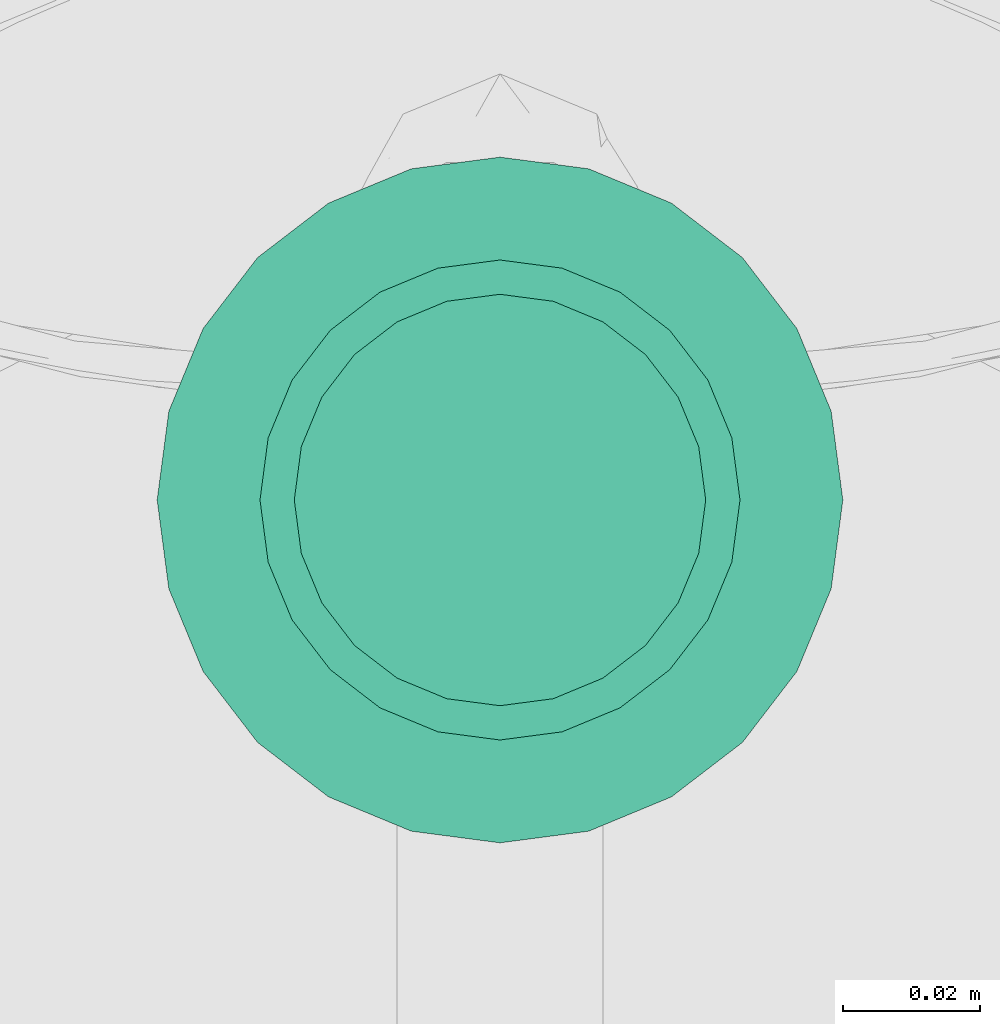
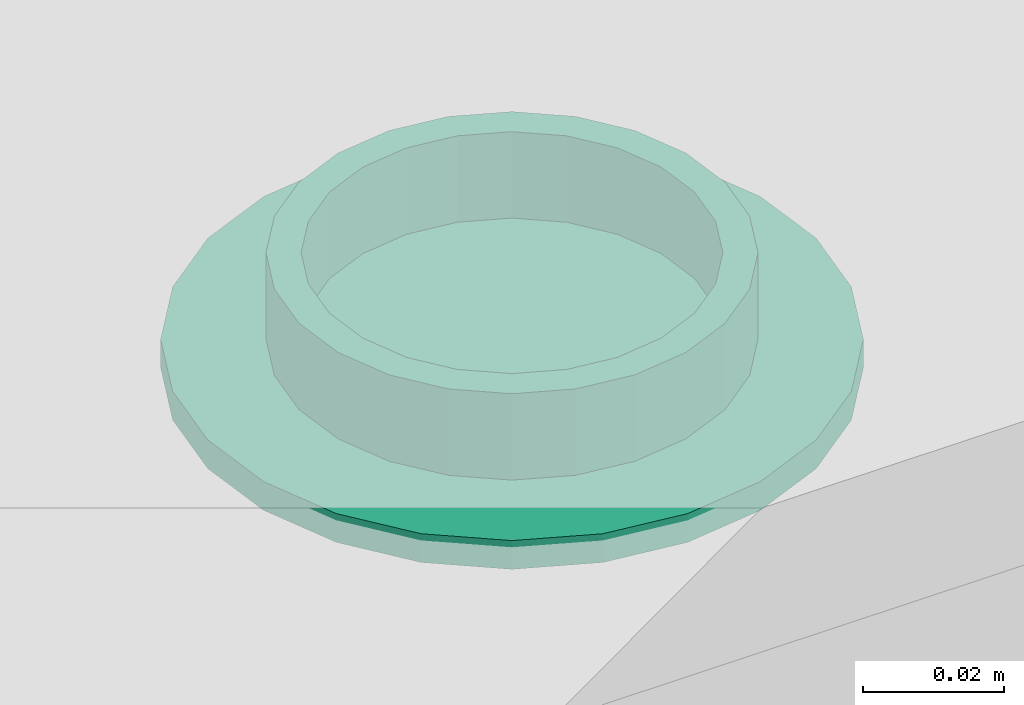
# One storey, part 24 of 40: 1 flow terminal.
"""IFC2X3 building model written with IfcOpenShell, lengths in metres."""

import ifcopenshell
import ifcopenshell.guid

model = None  # the IFC model being written
_history = None  # IfcOwnerHistory: only IFC2X3 demands one
_inside = {}  # id of a spatial element -> (the spatial element, [elements in it])
_under = {}  # id of a project, library or spatial element -> (it, [spatial elements below it])
_declared = {}  # id of a project -> (the project, [libraries it declares])
_typed = {}  # id of a type object -> (the type object, [elements of that type])
_made_of = {}  # id of a material, layer set ... -> (it, [elements and type objects made of it])


def new_model(schema):
    """Start an empty IFC model of exactly this schema.

    Asked for "IFC4X3", IfcOpenShell would pick the latest addendum, in which some entities
    have other attributes; the version numbers below select the first issue.
    IFC2X3 requires an IfcOwnerHistory on every rooted entity: one is made here for all.
    """
    global model, _history
    if schema == "IFC4X3":
        model = ifcopenshell.file(schema_version=(4, 3, 0, 0))
    else:
        model = ifcopenshell.file(schema=schema)
    _inside.clear()
    _under.clear()
    _declared.clear()
    _typed.clear()
    _made_of.clear()
    _history = None
    if model.schema == "IFC2X3":
        org = make("IfcOrganization", Name="unknown")
        user = make(
            "IfcPersonAndOrganization",
            ThePerson=make("IfcPerson", FamilyName="unknown"),
            TheOrganization=org,
        )
        app = make(
            "IfcApplication",
            ApplicationDeveloper=org,
            Version="unknown",
            ApplicationFullName="unknown",
            ApplicationIdentifier="unknown",
        )
        _history = make(
            "IfcOwnerHistory",
            OwningUser=user,
            OwningApplication=app,
            ChangeAction="ADDED",
            CreationDate=0,
        )
    return model


def make(cls, **values):
    """One entity of the class cls with the attributes given. An attribute that is None is left unset."""
    return model.create_entity(
        cls, **{name: value for name, value in values.items() if value is not None}
    )


def entity(cls, *values):
    """Any entity or typed value of the class cls, its attributes in the order of the schema. None: left unset."""
    e = model.create_entity(cls)
    for i, value in enumerate(values):
        if value is not None:
            e[i] = value
    return e


def rooted(cls, **values):
    """An entity with a GlobalId (a new one), such as an element, a storey or a relation."""
    return make(cls, GlobalId=ifcopenshell.guid.new(), OwnerHistory=_history, **values)


def si_unit(unit_type, name, prefix=None):
    """IfcSIUnit, for example si_unit("LENGTHUNIT", "METRE", prefix="MILLI")."""
    return make("IfcSIUnit", UnitType=unit_type, Prefix=prefix, Name=name)


def converted_unit(unit_type, name, factor, base, dimensions=None, offset=None):
    """IfcConversionBasedUnit, such as the inch: factor (a typed value) times the base unit."""
    return make(
        "IfcConversionBasedUnit"
        if offset is None
        else "IfcConversionBasedUnitWithOffset",
        ConversionOffset=offset,
        Dimensions=None
        if dimensions is None
        else entity("IfcDimensionalExponents", *dimensions),
        UnitType=unit_type,
        Name=name,
        ConversionFactor=make(
            "IfcMeasureWithUnit", ValueComponent=factor, UnitComponent=base
        ),
    )


def derived_unit(unit_type, elements):
    """IfcDerivedUnit: a product of units, each with its exponent."""
    return make(
        "IfcDerivedUnit",
        Elements=[
            make("IfcDerivedUnitElement", Unit=unit, Exponent=power)
            for unit, power in elements
        ],
        UnitType=unit_type,
    )


def assignment(units):
    """IfcUnitAssignment: the units of a project."""
    return None if units is None else make("IfcUnitAssignment", Units=units)


def point(xyz):
    """IfcCartesianPoint."""
    return None if xyz is None else make("IfcCartesianPoint", Coordinates=xyz)


def direction(xyz):
    """IfcDirection."""
    return None if xyz is None else make("IfcDirection", DirectionRatios=xyz)


def frame(location, z_axis=None, x_axis=None):
    """IfcAxis2Placement3D, a coordinate frame: its origin and axes. An axis left out is left unset."""
    return make(
        "IfcAxis2Placement3D",
        Location=point(location),
        Axis=direction(z_axis),
        RefDirection=direction(x_axis),
    )


def origin():
    """The frame at (0, 0, 0) with its axes left unset."""
    return frame((0.0, 0.0, 0.0))


def place(relative_to, where):
    """IfcLocalPlacement: puts the frame where relative to a parent placement (None: the world)."""
    return make(
        "IfcLocalPlacement", PlacementRelTo=relative_to, RelativePlacement=where
    )


def context(
    kind, dimensions, precision=None, world=None, true_north=None, identifier=None
):
    """IfcGeometricRepresentationContext, for example the 3D "Model" context."""
    return make(
        "IfcGeometricRepresentationContext",
        ContextIdentifier=identifier,
        ContextType=kind,
        CoordinateSpaceDimension=dimensions,
        Precision=precision,
        WorldCoordinateSystem=world,
        TrueNorth=true_north,
    )


def subcontext(parent, identifier, kind, view, scale=None):
    """IfcGeometricRepresentationSubContext, for example "Body" below "Model"."""
    return make(
        "IfcGeometricRepresentationSubContext",
        ContextIdentifier=identifier,
        ContextType=kind,
        ParentContext=parent,
        TargetScale=scale,
        TargetView=view,
    )


def project(units=None, contexts=None):
    """IfcProject with its units and contexts."""
    return rooted(
        "IfcProject",
        Name="project",
        RepresentationContexts=contexts,
        UnitsInContext=assignment(units),
    )


def spatial(cls, under=None, at=None, **own):
    """A site, building, storey or space (cls), placed at a placement, below another one or the project."""
    s = rooted(cls, ObjectPlacement=at, **own)
    if under is not None:
        _under.setdefault(under.id(), (under, []))[1].append(s)
    return s


def faces_of(points, faces, orient=None, outer=None):
    """IfcFace entities. A face is a list of loops; a loop is a list of indices into points, from 0.

    orient and outer hold one flag for each loop. By default every Orientation is true, the
    first loop of a face is its IfcFaceOuterBound and the others are IfcFaceBound.
    """
    made = []
    for i, loops in enumerate(faces):
        bounds = []
        for j, loop in enumerate(loops):
            is_outer = j == 0 if outer is None else outer[i][j]
            bounds.append(
                make(
                    "IfcFaceOuterBound" if is_outer else "IfcFaceBound",
                    Bound=make("IfcPolyLoop", Polygon=[points[k] for k in loop]),
                    Orientation=True if orient is None else orient[i][j],
                )
            )
        made.append(make("IfcFace", Bounds=bounds))
    return made


def faceted_brep(points, faces, orient=None, outer=None, voids=None):
    """IfcFacetedBrep: a solid bounded by flat faces; with voids (closed shells), ...WithVoids."""
    shared = [point(p) for p in points]
    hull = make("IfcClosedShell", CfsFaces=faces_of(shared, faces, orient, outer))
    if voids is None:
        return make("IfcFacetedBrep", Outer=hull)
    return make(
        "IfcFacetedBrepWithVoids",
        Outer=hull,
        Voids=[
            make(cls, CfsFaces=faces_of(shared, fs, o, b)) for cls, fs, o, b in voids
        ],
    )


def shape(context_of_items, identifier, shape_type, items):
    """IfcShapeRepresentation: the items that make up one representation, for example the "Body"."""
    return make(
        "IfcShapeRepresentation",
        ContextOfItems=context_of_items,
        RepresentationIdentifier=identifier,
        RepresentationType=shape_type,
        Items=items,
    )


def source(mapping_origin, context_of_items, identifier, shape_type, items):
    """IfcRepresentationMap: a shape defined once, which mapped items show again and again."""
    return make(
        "IfcRepresentationMap",
        MappingOrigin=mapping_origin,
        MappedRepresentation=shape(context_of_items, identifier, shape_type, items),
    )


def transform(
    local_origin,
    x_axis=None,
    y_axis=None,
    z_axis=None,
    scale=None,
    scale2=None,
    scale3=None,
    uniform=True,
):
    """IfcCartesianTransformationOperator3D, or its non-uniform kind. x_axis, y_axis, z_axis: its Axis1, 2, 3."""
    if uniform:
        return make(
            "IfcCartesianTransformationOperator3D",
            Axis1=direction(x_axis),
            Axis2=direction(y_axis),
            LocalOrigin=point(local_origin),
            Scale=scale,
            Axis3=direction(z_axis),
        )
    return make(
        "IfcCartesianTransformationOperator3DnonUniform",
        Axis1=direction(x_axis),
        Axis2=direction(y_axis),
        LocalOrigin=point(local_origin),
        Scale=scale,
        Axis3=direction(z_axis),
        Scale2=scale2,
        Scale3=scale3,
    )


def mapped(mapping_source, mapping_target):
    """IfcMappedItem: shows the shape of a source again, moved by a transform."""
    return make(
        "IfcMappedItem", MappingSource=mapping_source, MappingTarget=mapping_target
    )


def material(Name=None, Category=None):
    """IfcMaterial."""
    return make("IfcMaterial", Name=Name, Category=Category)


def material_list(materials):
    """IfcMaterialList."""
    return make("IfcMaterialList", Materials=materials)


def made_of(thing, what):
    """Note that an element or type object is made of a material, layer set ...; save() writes the relation."""
    if what is not None:
        _made_of.setdefault(what.id(), (what, []))[1].append(thing)
    return thing


def type_object(cls, material=None, **own):
    """A type object (cls), such as IfcWallType, which elements share."""
    return made_of(rooted(cls, **own), material)


def type_shapes(of_type, sources):
    """Give a type object the sources (RepresentationMaps) that its elements show as mapped items."""
    of_type.RepresentationMaps = sources


def element(
    cls,
    number,
    at=None,
    inside=None,
    cuts=None,
    type_object=None,
    material=None,
    context=None,
    identifier="Body",
    shape_type=None,
    held_by="IfcProductDefinitionShape",
    body=None,
    shapes=None,
    **own,
):
    """One element of the class cls, such as IfcWall. Its Tag is "e" and its number.

    at: its placement. inside: the storey or other place that contains it. cuts: it is an
    opening in that element (IfcRelVoidsElement). A single representation is given by context,
    identifier, shape_type and body (its items); several are given by shapes. held_by: the class
    of the entity that holds the representations. save() writes the other relations.
    """
    e = rooted(cls, Tag="e%d" % number, ObjectPlacement=at, **own)
    if body is not None:
        shapes = [shape(context, identifier, shape_type, body)]
    if shapes is not None:
        e.Representation = make(held_by, Representations=shapes)
    if inside is not None:
        _inside.setdefault(inside.id(), (inside, []))[1].append(e)
    if cuts is not None:
        rooted(
            "IfcRelVoidsElement", RelatingBuildingElement=cuts, RelatedOpeningElement=e
        )
    if type_object is not None:
        _typed.setdefault(type_object.id(), (type_object, []))[1].append(e)
    return made_of(e, material)


def aggregate(whole, parts):
    """IfcRelAggregates: a whole, such as a stair, and the parts it consists of."""
    return rooted("IfcRelAggregates", RelatingObject=whole, RelatedObjects=parts)


def save(model, path):
    """Write the relations noted so far, then the file.

    IfcRelAggregates (storeys below a building ...), IfcRelContainedInSpatialStructure (elements
    in a storey), IfcRelDefinesByType, IfcRelAssociatesMaterial and IfcRelDeclares: one each for
    every whole, place, type object, material and project.
    """
    for whole, parts in _under.values():
        aggregate(whole, parts)
    for where, things in _inside.values():
        rooted(
            "IfcRelContainedInSpatialStructure",
            RelatedElements=things,
            RelatingStructure=where,
        )
    for kind, things in _typed.values():
        rooted("IfcRelDefinesByType", RelatedObjects=things, RelatingType=kind)
    for what, things in _made_of.values():
        rooted("IfcRelAssociatesMaterial", RelatedObjects=things, RelatingMaterial=what)
    for by, libraries in _declared.values():
        rooted("IfcRelDeclares", RelatingContext=by, RelatedDefinitions=libraries)
    model.write(path)


model = new_model("IFC2X3")

# Units and contexts
model_context = context("Model", 3, precision=1e-05, world=origin(), true_north=direction((6.12303176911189e-17, 1.0)))
body_context = subcontext(model_context, "Body", "Model", "MODEL_VIEW")
ifc_project = project(units=[si_unit("LENGTHUNIT", "METRE"), si_unit("AREAUNIT", "SQUARE_METRE"), si_unit("VOLUMEUNIT", "CUBIC_METRE"), converted_unit("PLANEANGLEUNIT", "DEGREE", entity("IfcRatioMeasure", 0.0174532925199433), si_unit("PLANEANGLEUNIT", "RADIAN"), dimensions=[0, 0, 0, 0, 0, 0, 0]), si_unit("MASSUNIT", "GRAM", prefix="KILO"), derived_unit("MASSDENSITYUNIT", [(si_unit("MASSUNIT", "GRAM", prefix="KILO"), 1), (si_unit("LENGTHUNIT", "METRE"), -3)]), si_unit("TIMEUNIT", "SECOND"), si_unit("FREQUENCYUNIT", "HERTZ"), si_unit("THERMODYNAMICTEMPERATUREUNIT", "DEGREE_CELSIUS"), derived_unit("THERMALTRANSMITTANCEUNIT", [(si_unit("MASSUNIT", "GRAM", prefix="KILO"), 1), (si_unit("THERMODYNAMICTEMPERATUREUNIT", "KELVIN"), -1), (si_unit("TIMEUNIT", "SECOND"), -3)]), derived_unit("VOLUMETRICFLOWRATEUNIT", [(si_unit("LENGTHUNIT", "METRE"), 3), (si_unit("TIMEUNIT", "SECOND"), -1)]), si_unit("ELECTRICCURRENTUNIT", "AMPERE"), si_unit("ELECTRICVOLTAGEUNIT", "VOLT"), si_unit("POWERUNIT", "WATT"), si_unit("FORCEUNIT", "NEWTON", prefix="KILO"), si_unit("ILLUMINANCEUNIT", "LUX"), si_unit("LUMINOUSFLUXUNIT", "LUMEN"), si_unit("LUMINOUSINTENSITYUNIT", "CANDELA"), derived_unit("USERDEFINED", [(si_unit("MASSUNIT", "GRAM", prefix="KILO"), -1), (si_unit("LENGTHUNIT", "METRE"), -2), (si_unit("TIMEUNIT", "SECOND"), 3), (si_unit("LUMINOUSFLUXUNIT", "LUMEN"), 1)]), derived_unit("LINEARVELOCITYUNIT", [(si_unit("LENGTHUNIT", "METRE"), 1), (si_unit("TIMEUNIT", "SECOND"), -1)]), si_unit("PRESSUREUNIT", "PASCAL"), derived_unit("USERDEFINED", [(si_unit("LENGTHUNIT", "METRE"), -2), (si_unit("MASSUNIT", "GRAM", prefix="KILO"), 1), (si_unit("TIMEUNIT", "SECOND"), -2)])], contexts=[model_context])

# Site, building, storey, space
site_placement = place(None, origin())
site = spatial("IfcSite", under=ifc_project, at=site_placement, Name="Surface", CompositionType="ELEMENT")
building_placement = place(site_placement, origin())
building = spatial("IfcBuilding", under=site, at=building_placement, CompositionType="ELEMENT")
storey_placement = place(building_placement, origin())
storey = spatial("IfcBuildingStorey", under=building, at=storey_placement, Name="RDC", CompositionType="ELEMENT", Elevation=-1.0941605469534e-13)
space_placement = place(storey_placement, origin())
space = spatial("IfcSpace", under=storey, at=space_placement, Name="9", CompositionType="ELEMENT", InteriorOrExteriorSpace="INTERNAL")

# Flow terminal
ifc_material_1 = material(Name="Verre - Lampe")
ifc_material_2 = material(Name="Plastique - Blanc")
ifc_material_list_1 = material_list([ifc_material_1, ifc_material_2])
ifc_material_list_2 = material_list([ifc_material_1, ifc_material_2])
light_fixture_type = type_object("IfcLightFixtureType", Name="Encastrable", PredefinedType="NOTDEFINED", material=ifc_material_list_2)
shared_shape = source(origin(), body_context, "Body", "Brep", [
    faceted_brep([(0.0665952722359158, 0.0775760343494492, 0.00300000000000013), (0.0728084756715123, 0.0728084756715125, 0.00300000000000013), (0.0775760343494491, 0.0665952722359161, 0.00300000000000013), (0.080573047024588, 0.0593598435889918, 0.00300000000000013), (0.081595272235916, 0.051595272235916, 0.00300000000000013), (0.080573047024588, 0.0438307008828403, 0.00300000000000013), (0.0775760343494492, 0.0365952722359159, 0.00300000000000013), (0.0728084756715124, 0.0303820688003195, 0.00300000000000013), (0.066595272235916, 0.0256145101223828, 0.00300000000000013), (0.0593598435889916, 0.0226174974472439, 0.00300000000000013), (0.051595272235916, 0.0215952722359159, 0.00300000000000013), (0.0438307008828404, 0.0226174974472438, 0.00300000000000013), (0.036595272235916, 0.0256145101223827, 0.0030000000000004), (0.0303820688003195, 0.0303820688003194, 0.0030000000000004), (0.0256145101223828, 0.0365952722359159, 0.0030000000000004), (0.0226174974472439, 0.0438307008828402, 0.0030000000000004), (0.0215952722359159, 0.0515952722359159, 0.0030000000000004), (0.0226174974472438, 0.0593598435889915, 0.0030000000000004), (0.0256145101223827, 0.0665952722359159, 0.0030000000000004), (0.0303820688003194, 0.0728084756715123, 0.0030000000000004), (0.0365952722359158, 0.0775760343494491, 0.0030000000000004), (0.0438307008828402, 0.080573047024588, 0.00300000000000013), (0.0515952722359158, 0.081595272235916, 0.00300000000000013), (0.0593598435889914, 0.0805730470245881, 0.00300000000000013), (0.051595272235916, 0.0215952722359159, 0.00500000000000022), (0.0593598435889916, 0.0226174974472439, 0.00500000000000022), (0.066595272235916, 0.0256145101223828, 0.00500000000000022), (0.0728084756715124, 0.0303820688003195, 0.00500000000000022), (0.0775760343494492, 0.0365952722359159, 0.00500000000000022), (0.0805730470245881, 0.0438307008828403, 0.00500000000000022), (0.081595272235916, 0.0515952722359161, 0.00500000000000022), (0.080573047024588, 0.0593598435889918, 0.00500000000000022), (0.0775760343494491, 0.0665952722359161, 0.00500000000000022), (0.0728084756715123, 0.0728084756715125, 0.00500000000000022), (0.0665952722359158, 0.0775760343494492, 0.00500000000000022), (0.0593598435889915, 0.0805730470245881, 0.00500000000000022), (0.0515952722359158, 0.081595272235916, 0.00500000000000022), (0.0438307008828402, 0.080573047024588, 0.00500000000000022), (0.0365952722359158, 0.0775760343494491, 0.00500000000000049), (0.0303820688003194, 0.0728084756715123, 0.00500000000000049), (0.0256145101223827, 0.0665952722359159, 0.00500000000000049), (0.0226174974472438, 0.0593598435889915, 0.00500000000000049), (0.0215952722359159, 0.0515952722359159, 0.00500000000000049), (0.0226174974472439, 0.0438307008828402, 0.00500000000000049), (0.0256145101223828, 0.0365952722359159, 0.00500000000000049), (0.0303820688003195, 0.0303820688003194, 0.00500000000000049), (0.036595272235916, 0.0256145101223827, 0.00500000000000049), (0.0438307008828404, 0.0226174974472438, 0.00500000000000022)], [[[0, 1, 2, 3, 4, 5, 6, 7, 8, 9, 10, 11, 12, 13, 14, 15, 16, 17, 18, 19, 20, 21, 22, 23]], [[24, 25, 26, 27, 28, 29, 30, 31, 32, 33, 34, 35, 36, 37, 38, 39, 40, 41, 42, 43, 44, 45, 46, 47]], [[41, 17, 16, 42]], [[40, 18, 17, 41]], [[20, 19, 39, 38]], [[40, 39, 19, 18]], [[21, 20, 38, 37]], [[22, 21, 37, 36]], [[35, 23, 22, 36]], [[34, 0, 23, 35]], [[2, 1, 33, 32]], [[34, 33, 1, 0]], [[3, 2, 32, 31]], [[4, 3, 31, 30]], [[29, 5, 4, 30]], [[28, 6, 5, 29]], [[8, 7, 27, 26]], [[28, 27, 7, 6]], [[9, 8, 26, 25]], [[10, 9, 25, 24]], [[47, 11, 10, 24]], [[46, 12, 11, 47]], [[14, 13, 45, 44]], [[46, 45, 13, 12]], [[15, 14, 44, 43]], [[16, 15, 43, 42]]]),
    faceted_brep([(0.0765952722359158, 0.0948965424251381, 0.0), (0.0869506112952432, 0.0869506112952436, 0.0), (0.066595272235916, 0.0775760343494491, 0.0), (0.0593598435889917, 0.080573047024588, 0.0), (0.0645362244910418, 0.0998915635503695, 0.0), (0.0728084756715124, 0.0728084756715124, 0.0), (0.0948965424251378, 0.0765952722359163, 0.0), (0.0775760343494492, 0.066595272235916, 0.0), (0.080573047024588, 0.0593598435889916, 0.0), (0.0998915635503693, 0.0645362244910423, 0.0), (0.081595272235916, 0.051595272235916, 0.0), (0.101595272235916, 0.051595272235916, 0.0), (0.080573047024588, 0.0438307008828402, 0.0), (0.0998915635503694, 0.03865431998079, 0.0), (0.0775760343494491, 0.0365952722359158, 0.0), (0.0948965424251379, 0.026595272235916, 0.0), (0.0728084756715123, 0.0303820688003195, 0.0), (0.0869506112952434, 0.0162399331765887, 0.0), (0.0665952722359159, 0.0256145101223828, 0.0), (0.076595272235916, 0.00829400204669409, 0.0), (0.0593598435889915, 0.0226174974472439, 0.0), (0.0645362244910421, 0.0032989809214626, 0.0), (0.0515952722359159, 0.021595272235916, 0.0), (0.0515952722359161, 0.001595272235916, 0.0), (0.0438307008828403, 0.022617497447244, 0.0), (0.03865431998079, 0.00329898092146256, 0.0), (0.0365952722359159, 0.0256145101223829, 0.0), (0.0265952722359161, 0.00829400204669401, 0.0), (0.0303820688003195, 0.0303820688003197, 0.0), (0.0162399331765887, 0.0162399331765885, 0.0), (0.0256145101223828, 0.0365952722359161, 0.0), (0.00829400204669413, 0.0265952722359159, 0.0), (0.00329898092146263, 0.0386543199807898, 0.0), (0.0226174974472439, 0.0438307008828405, 0.0), (0.001595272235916, 0.0515952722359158, 0.0), (0.021595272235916, 0.0515952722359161, 0.0), (0.00329898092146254, 0.0645362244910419, 0.0), (0.022617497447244, 0.0593598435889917, 0.0), (0.00829400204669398, 0.0765952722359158, 0.0), (0.0256145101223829, 0.0665952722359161, 0.0), (0.0162399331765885, 0.0869506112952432, 0.0), (0.0303820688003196, 0.0728084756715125, 0.0), (0.0265952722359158, 0.0948965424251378, 0.0), (0.036595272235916, 0.0775760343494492, 0.0), (0.0386543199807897, 0.0998915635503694, 0.0), (0.0438307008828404, 0.080573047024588, 0.0), (0.0515952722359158, 0.101595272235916, 0.0), (0.051595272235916, 0.081595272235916, 0.0), (0.0765952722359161, 0.00829400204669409, 0.00499999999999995), (0.0869506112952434, 0.0162399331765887, 0.00499999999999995), (0.0690952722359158, 0.0212843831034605, 0.00499999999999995), (0.060653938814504, 0.0177878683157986, 0.00499999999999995), (0.0645362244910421, 0.0032989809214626, 0.00499999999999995), (0.076344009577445, 0.0268465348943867, 0.00499999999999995), (0.0948965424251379, 0.026595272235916, 0.00499999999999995), (0.0819061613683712, 0.0340952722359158, 0.00499999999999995), (0.0854026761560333, 0.0425366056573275, 0.00499999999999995), (0.0998915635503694, 0.03865431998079, 0.00499999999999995), (0.086595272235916, 0.0515952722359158, 0.00499999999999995), (0.101595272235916, 0.0515952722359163, 0.00499999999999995), (0.0854026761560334, 0.0606539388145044, 0.00499999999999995), (0.0998915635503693, 0.0645362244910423, 0.00499999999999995), (0.0819061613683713, 0.0690952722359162, 0.00499999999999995), (0.0948965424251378, 0.0765952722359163, 0.00499999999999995), (0.076344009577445, 0.0763440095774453, 0.00499999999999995), (0.0869506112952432, 0.0869506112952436, 0.00499999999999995), (0.0690952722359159, 0.0819061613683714, 0.00499999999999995), (0.0765952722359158, 0.0948965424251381, 0.00499999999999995), (0.0606539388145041, 0.0854026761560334, 0.00499999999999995), (0.0645362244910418, 0.0998915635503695, 0.00499999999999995), (0.0515952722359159, 0.086595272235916, 0.00500000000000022), (0.0515952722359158, 0.101595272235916, 0.00500000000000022), (0.0425366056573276, 0.0854026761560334, 0.00500000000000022), (0.0386543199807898, 0.0998915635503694, 0.00500000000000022), (0.0340952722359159, 0.0819061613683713, 0.00500000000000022), (0.0265952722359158, 0.0948965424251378, 0.00500000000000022), (0.0268465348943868, 0.0763440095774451, 0.00500000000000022), (0.0162399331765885, 0.0869506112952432, 0.00500000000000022), (0.0212843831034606, 0.0690952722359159, 0.00500000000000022), (0.008294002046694, 0.0765952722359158, 0.00500000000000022), (0.00329898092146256, 0.0645362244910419, 0.00500000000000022), (0.0177878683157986, 0.0606539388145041, 0.00500000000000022), (0.00159527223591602, 0.0515952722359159, 0.00500000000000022), (0.016595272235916, 0.0515952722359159, 0.00500000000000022), (0.00329898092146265, 0.0386543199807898, 0.00500000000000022), (0.0177878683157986, 0.0425366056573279, 0.00500000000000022), (0.00829400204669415, 0.0265952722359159, 0.00500000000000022), (0.0212843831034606, 0.0340952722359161, 0.00500000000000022), (0.0162399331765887, 0.0162399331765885, 0.00500000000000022), (0.0268465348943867, 0.0268465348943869, 0.00500000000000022), (0.0265952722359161, 0.00829400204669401, 0.00500000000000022), (0.0340952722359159, 0.0212843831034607, 0.00500000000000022), (0.0386543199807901, 0.00329898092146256, 0.00500000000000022), (0.0425366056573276, 0.0177878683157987, 0.00500000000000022), (0.0515952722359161, 0.001595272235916, 0.00500000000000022), (0.0515952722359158, 0.016595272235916, 0.00500000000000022), (0.021595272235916, 0.0515952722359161, 0.00500000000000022), (0.0215952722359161, 0.0515952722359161, 0.0200000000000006), (0.022617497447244, 0.0438307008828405, 0.0200000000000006), (0.0226174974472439, 0.0438307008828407, 0.00500000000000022), (0.0256145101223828, 0.0365952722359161, 0.0200000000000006), (0.0256145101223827, 0.0365952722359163, 0.00500000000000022), (0.0303820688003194, 0.0303820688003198, 0.00500000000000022), (0.0303820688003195, 0.0303820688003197, 0.0200000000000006), (0.036595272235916, 0.0256145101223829, 0.0200000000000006), (0.0365952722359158, 0.025614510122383, 0.00500000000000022), (0.0438307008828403, 0.022617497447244, 0.0200000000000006), (0.0438307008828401, 0.022617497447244, 0.00500000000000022), (0.0515952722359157, 0.021595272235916, 0.00500000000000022), (0.0515952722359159, 0.021595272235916, 0.0200000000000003), (0.0593598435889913, 0.0226174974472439, 0.00499999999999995), (0.0593598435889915, 0.0226174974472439, 0.0200000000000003), (0.0665952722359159, 0.0256145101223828, 0.0200000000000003), (0.0665952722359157, 0.0256145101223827, 0.00499999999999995), (0.0728084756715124, 0.0303820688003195, 0.0200000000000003), (0.0728084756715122, 0.0303820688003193, 0.00499999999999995), (0.077576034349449, 0.0365952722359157, 0.00499999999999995), (0.0775760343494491, 0.0365952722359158, 0.0200000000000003), (0.080573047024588, 0.0438307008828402, 0.0200000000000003), (0.080573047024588, 0.04383070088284, 0.00499999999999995), (0.0815952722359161, 0.0515952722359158, 0.0200000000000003), (0.081595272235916, 0.0515952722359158, 0.00499999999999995), (0.0805730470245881, 0.0593598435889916, 0.0200000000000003), (0.0805730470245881, 0.0593598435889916, 0.00499999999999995), (0.0775760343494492, 0.066595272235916, 0.0200000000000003), (0.0775760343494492, 0.066595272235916, 0.00499999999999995), (0.0728084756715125, 0.0728084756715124, 0.00499999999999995), (0.0728084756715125, 0.0728084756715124, 0.0200000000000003), (0.0665952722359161, 0.0775760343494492, 0.0200000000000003), (0.066595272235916, 0.0775760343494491, 0.00499999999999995), (0.0593598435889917, 0.080573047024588, 0.0200000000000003), (0.0593598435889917, 0.080573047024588, 0.00499999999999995), (0.0515952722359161, 0.081595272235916, 0.00500000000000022), (0.0515952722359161, 0.081595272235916, 0.0200000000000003), (0.0438307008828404, 0.080573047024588, 0.00500000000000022), (0.0438307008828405, 0.0805730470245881, 0.0200000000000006), (0.0365952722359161, 0.0775760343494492, 0.0200000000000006), (0.0365952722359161, 0.0775760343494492, 0.00500000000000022), (0.0303820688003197, 0.0728084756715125, 0.0200000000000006), (0.0303820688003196, 0.0728084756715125, 0.00500000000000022), (0.0256145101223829, 0.0665952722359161, 0.00500000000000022), (0.0256145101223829, 0.0665952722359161, 0.0200000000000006), (0.022617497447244, 0.0593598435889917, 0.0200000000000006), (0.022617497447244, 0.0593598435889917, 0.00500000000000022), (0.0690952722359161, 0.0212843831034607, 0.0200000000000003), (0.0763440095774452, 0.0268465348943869, 0.0200000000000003), (0.0606539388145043, 0.0177878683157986, 0.0200000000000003), (0.0819061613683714, 0.034095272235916, 0.0200000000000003), (0.0854026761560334, 0.0425366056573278, 0.0200000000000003), (0.0865952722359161, 0.0515952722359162, 0.0200000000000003), (0.0854026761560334, 0.0606539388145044, 0.0200000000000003), (0.0819061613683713, 0.0690952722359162, 0.0200000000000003), (0.0763440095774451, 0.0763440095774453, 0.0200000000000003), (0.0690952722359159, 0.0819061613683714, 0.0200000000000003), (0.0606539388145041, 0.0854026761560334, 0.0200000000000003), (0.0515952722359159, 0.086595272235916, 0.0200000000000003), (0.0425366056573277, 0.0854026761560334, 0.0200000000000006), (0.0340952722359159, 0.0819061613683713, 0.0200000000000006), (0.0268465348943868, 0.0763440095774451, 0.0200000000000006), (0.0212843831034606, 0.0690952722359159, 0.0200000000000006), (0.0177878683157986, 0.0606539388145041, 0.0200000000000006), (0.0165952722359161, 0.0515952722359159, 0.0200000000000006), (0.0177878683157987, 0.0425366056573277, 0.0200000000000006), (0.0212843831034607, 0.0340952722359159, 0.0200000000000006), (0.0268465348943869, 0.0268465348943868, 0.0200000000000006), (0.0340952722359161, 0.0212843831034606, 0.0200000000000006), (0.0425366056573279, 0.0177878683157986, 0.0200000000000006), (0.0515952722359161, 0.016595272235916, 0.0200000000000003)], [[[0, 1, 2]], [[0, 2, 3]], [[3, 4, 0]], [[2, 1, 5]], [[6, 5, 1]], [[7, 5, 6]], [[8, 7, 6]], [[8, 6, 9]], [[8, 9, 10]], [[10, 9, 11]], [[12, 10, 11]], [[12, 11, 13]], [[14, 12, 13]], [[14, 13, 15]], [[16, 14, 15]], [[15, 17, 16]], [[17, 18, 16]], [[18, 17, 19]], [[18, 19, 20]], [[21, 20, 19]], [[20, 21, 22]], [[22, 21, 23]], [[23, 24, 22]], [[24, 23, 25]], [[24, 25, 26]], [[27, 26, 25]], [[27, 28, 26]], [[27, 29, 28]], [[30, 28, 29]], [[31, 30, 29]], [[32, 30, 31]], [[33, 30, 32]], [[33, 32, 34]], [[34, 35, 33]], [[36, 35, 34]], [[36, 37, 35]], [[37, 36, 38]], [[39, 37, 38]], [[39, 38, 40]], [[39, 40, 41]], [[40, 42, 41]], [[41, 42, 43]], [[43, 42, 44]], [[44, 45, 43]], [[46, 45, 44]], [[4, 47, 46]], [[45, 46, 47]], [[4, 3, 47]], [[48, 49, 50]], [[48, 50, 51]], [[51, 52, 48]], [[50, 49, 53]], [[54, 53, 49]], [[55, 53, 54]], [[56, 55, 54]], [[56, 54, 57]], [[56, 57, 58]], [[58, 57, 59]], [[60, 58, 59]], [[60, 59, 61]], [[62, 60, 61]], [[62, 61, 63]], [[64, 62, 63]], [[63, 65, 64]], [[65, 66, 64]], [[66, 65, 67]], [[66, 67, 68]], [[69, 68, 67]], [[68, 69, 70]], [[70, 69, 71]], [[71, 72, 70]], [[72, 71, 73]], [[72, 73, 74]], [[75, 74, 73]], [[75, 76, 74]], [[75, 77, 76]], [[78, 76, 77]], [[79, 78, 77]], [[80, 78, 79]], [[81, 78, 80]], [[81, 80, 82]], [[82, 83, 81]], [[84, 83, 82]], [[84, 85, 83]], [[85, 84, 86]], [[87, 85, 86]], [[87, 86, 88]], [[87, 88, 89]], [[88, 90, 89]], [[89, 90, 91]], [[91, 90, 92]], [[92, 93, 91]], [[94, 93, 92]], [[52, 95, 94]], [[93, 94, 95]], [[52, 51, 95]], [[80, 36, 34, 82]], [[79, 38, 36, 80]], [[42, 40, 77, 75]], [[79, 77, 40, 38]], [[44, 42, 75, 73]], [[46, 44, 73, 71]], [[69, 4, 46, 71]], [[67, 0, 4, 69]], [[6, 1, 65, 63]], [[67, 65, 1, 0]], [[9, 6, 63, 61]], [[11, 9, 61, 59]], [[57, 13, 11, 59]], [[54, 15, 13, 57]], [[19, 17, 49, 48]], [[54, 49, 17, 15]], [[21, 19, 48, 52]], [[23, 21, 52, 94]], [[92, 25, 23, 94]], [[90, 27, 25, 92]], [[31, 29, 88, 86]], [[90, 88, 29, 27]], [[32, 31, 86, 84]], [[34, 32, 84, 82]], [[35, 96, 97, 98, 99, 33]], [[33, 99, 98, 100, 101, 30]], [[26, 28, 102, 103, 104, 105]], [[101, 100, 103, 102, 28, 30]], [[24, 26, 105, 104, 106, 107]], [[108, 22, 24, 107, 106, 109]], [[20, 110, 111, 112, 113, 18]], [[18, 113, 112, 114, 115, 16]], [[12, 14, 116, 117, 118, 119]], [[115, 114, 117, 116, 14, 16]], [[10, 12, 119, 118, 120, 121]], [[20, 22, 108, 109, 111, 110]], [[10, 121, 120, 122, 123, 8]], [[8, 123, 122, 124, 125, 7]], [[2, 5, 126, 127, 128, 129]], [[125, 124, 127, 126, 5, 7]], [[3, 2, 129, 128, 130, 131]], [[132, 47, 3, 131, 130, 133]], [[45, 134, 135, 136, 137, 43]], [[43, 137, 136, 138, 139, 41]], [[37, 39, 140, 141, 142, 143]], [[139, 138, 141, 140, 39, 41]], [[35, 37, 143, 142, 97, 96]], [[45, 47, 132, 133, 135, 134]], [[144, 145, 112]], [[144, 112, 111]], [[111, 146, 144]], [[112, 145, 114]], [[147, 114, 145]], [[117, 114, 147]], [[118, 117, 147]], [[118, 147, 148]], [[118, 148, 120]], [[120, 148, 149]], [[122, 120, 149]], [[122, 149, 150]], [[124, 122, 150]], [[124, 150, 151]], [[127, 124, 151]], [[151, 152, 127]], [[152, 128, 127]], [[152, 153, 128]], [[128, 153, 130]], [[154, 130, 153]], [[130, 154, 133]], [[133, 154, 155]], [[133, 155, 135]], [[135, 155, 156]], [[135, 156, 136]], [[157, 136, 156]], [[157, 138, 136]], [[138, 157, 158]], [[141, 138, 158]], [[159, 141, 158]], [[160, 141, 159]], [[142, 141, 160]], [[142, 160, 161]], [[97, 142, 161]], [[162, 97, 161]], [[162, 98, 97]], [[98, 162, 163]], [[100, 98, 163]], [[100, 163, 164]], [[100, 164, 103]], [[164, 165, 103]], [[103, 165, 104]], [[104, 165, 166]], [[166, 106, 104]], [[167, 106, 166]], [[146, 109, 167]], [[167, 109, 106]], [[146, 111, 109]], [[160, 81, 83, 161]], [[159, 78, 81, 160]], [[74, 76, 158, 157]], [[159, 158, 76, 78]], [[72, 74, 157, 156]], [[70, 72, 156, 155]], [[154, 68, 70, 155]], [[153, 66, 68, 154]], [[62, 64, 152, 151]], [[153, 152, 64, 66]], [[60, 62, 151, 150]], [[58, 60, 150, 149]], [[148, 56, 58, 149]], [[147, 55, 56, 148]], [[50, 53, 145, 144]], [[147, 145, 53, 55]], [[51, 50, 144, 146]], [[95, 51, 146, 167]], [[166, 93, 95, 167]], [[165, 91, 93, 166]], [[87, 89, 164, 163]], [[165, 164, 89, 91]], [[85, 87, 163, 162]], [[83, 85, 162, 161]]]),
])
type_shapes(light_fixture_type, [shared_shape])
flow_terminal_placement = place(space_placement, frame((14.7929009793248, 1.64041540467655, 1.89999999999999)))
element("IfcFlowTerminal", 1, at=flow_terminal_placement, inside=space, type_object=light_fixture_type, material=ifc_material_list_1, Name="Spot:Encastrable", ObjectType="Encastrable", context=body_context, shape_type="MappedRepresentation", body=[
    mapped(shared_shape, transform((0.0, 0.0, 0.0), scale=1.0)),
])

save(model, "model.ifc")
